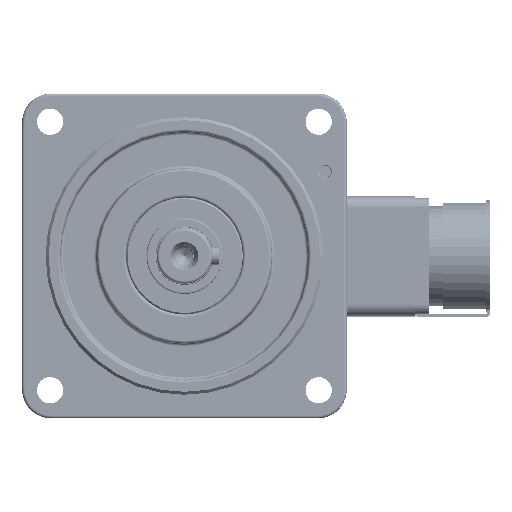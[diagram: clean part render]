
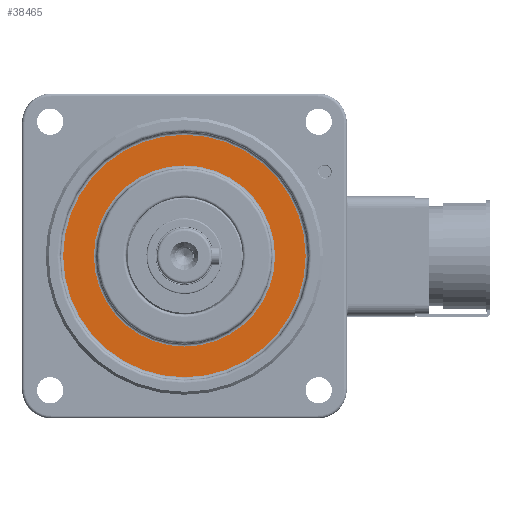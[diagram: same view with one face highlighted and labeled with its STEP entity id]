
A CAD part, left-side view. The second image highlights one B-rep face of the part: STEP entity #38465.
In plain terms, the highlighted planar face has unit normal (-1, 0, 0) as drawn and (1, 0, 0) by its records, which use the part's own axes.
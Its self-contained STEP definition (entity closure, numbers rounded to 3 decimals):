
#1491 = CIRCLE ( 'NONE', #69077, 41.5 ) ;
#9674 = VERTEX_POINT ( 'NONE', #107420 ) ;
#11951 = EDGE_CURVE ( 'NONE', #41191, #80061, #78412, .T. ) ;
#15791 = CARTESIAN_POINT ( 'NONE',  ( 23.5, 0., 0. ) ) ;
#20150 = CARTESIAN_POINT ( 'NONE',  ( 23.5, 42.5, 0. ) ) ;
#29223 = FACE_BOUND ( 'NONE', #118728, .T. ) ;
#29352 = DIRECTION ( 'NONE',  ( 1., 0., 0. ) ) ;
#33018 = DIRECTION ( 'NONE',  ( -1., 0., 0. ) ) ;
#34892 = ORIENTED_EDGE ( 'NONE', *, *, #69565, .T. ) ;
#34907 = CIRCLE ( 'NONE', #50349, 41.5 ) ;
#36335 = CARTESIAN_POINT ( 'NONE',  ( 23.5, 0., 0. ) ) ;
#38465 = ADVANCED_FACE ( 'NONE', ( #29223, #66111 ), #102994, .F. ) ;
#38899 = CIRCLE ( 'NONE', #106504, 31. ) ;
#40460 = EDGE_CURVE ( 'NONE', #9674, #84534, #1491, .T. ) ;
#41191 = VERTEX_POINT ( 'NONE', #105676 ) ;
#44848 = EDGE_CURVE ( 'NONE', #80061, #41191, #38899, .T. ) ;
#50349 = AXIS2_PLACEMENT_3D ( 'NONE', #15791, #52671, #89583 ) ;
#52671 = DIRECTION ( 'NONE',  ( 1., 0., 0. ) ) ;
#57040 = DIRECTION ( 'NONE',  ( -1., 0., 0. ) ) ;
#65040 = AXIS2_PLACEMENT_3D ( 'NONE', #20150, #57040, #93934 ) ;
#66111 = FACE_OUTER_BOUND ( 'NONE', #93255, .T. ) ;
#66235 = DIRECTION ( 'NONE',  ( 0., 0., 1. ) ) ;
#69077 = AXIS2_PLACEMENT_3D ( 'NONE', #112207, #29352, #66235 ) ;
#69565 = EDGE_CURVE ( 'NONE', #84534, #9674, #34907, .T. ) ;
#69902 = DIRECTION ( 'NONE',  ( 0., 0., 1. ) ) ;
#73223 = DIRECTION ( 'NONE',  ( -1., 0., 0. ) ) ;
#76946 = ORIENTED_EDGE ( 'NONE', *, *, #11951, .T. ) ;
#78412 = CIRCLE ( 'NONE', #86171, 31. ) ;
#80061 = VERTEX_POINT ( 'NONE', #80800 ) ;
#80800 = CARTESIAN_POINT ( 'NONE',  ( 23.5, 0., 31. ) ) ;
#84534 = VERTEX_POINT ( 'NONE', #85580 ) ;
#85580 = CARTESIAN_POINT ( 'NONE',  ( 23.5, 0., -41.5 ) ) ;
#86171 = AXIS2_PLACEMENT_3D ( 'NONE', #115854, #33018, #69902 ) ;
#89583 = DIRECTION ( 'NONE',  ( 0., 0., 1. ) ) ;
#93128 = ORIENTED_EDGE ( 'NONE', *, *, #40460, .T. ) ;
#93255 = EDGE_LOOP ( 'NONE', ( #93128, #34892 ) ) ;
#93934 = DIRECTION ( 'NONE',  ( 0., 0., 1. ) ) ;
#102173 = ORIENTED_EDGE ( 'NONE', *, *, #44848, .T. ) ;
#102994 = PLANE ( 'NONE',  #65040 ) ;
#105676 = CARTESIAN_POINT ( 'NONE',  ( 23.5, 0., -31. ) ) ;
#106504 = AXIS2_PLACEMENT_3D ( 'NONE', #36335, #73223, #110112 ) ;
#107420 = CARTESIAN_POINT ( 'NONE',  ( 23.5, 0., 41.5 ) ) ;
#110112 = DIRECTION ( 'NONE',  ( 0., 0., 1. ) ) ;
#112207 = CARTESIAN_POINT ( 'NONE',  ( 23.5, 0., 0. ) ) ;
#115854 = CARTESIAN_POINT ( 'NONE',  ( 23.5, 0., 0. ) ) ;
#118728 = EDGE_LOOP ( 'NONE', ( #102173, #76946 ) ) ;
